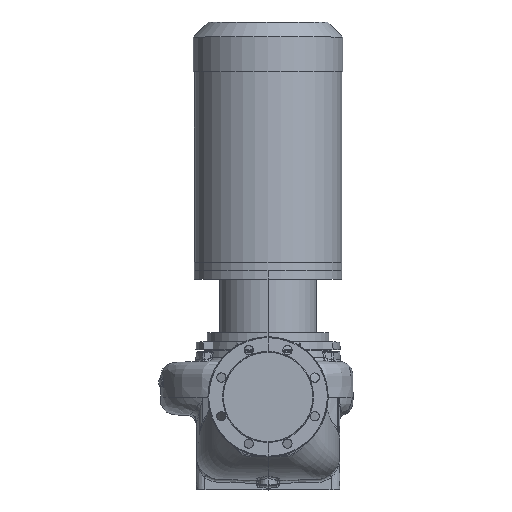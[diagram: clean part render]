
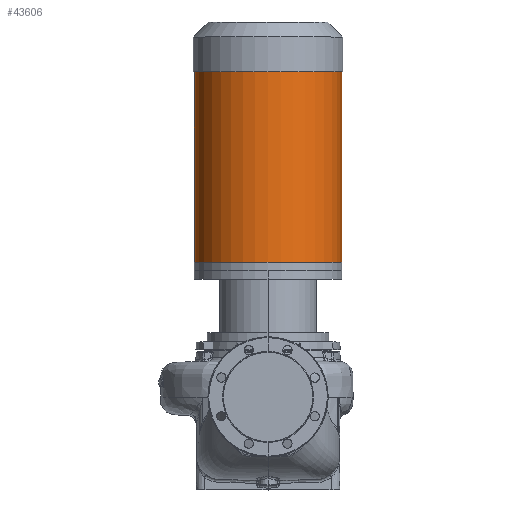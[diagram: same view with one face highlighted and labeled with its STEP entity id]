
A CAD part, top view. The second image highlights one B-rep face of the part: STEP entity #43606.
In plain terms, the highlighted cylindrical face has radius 174.5 mm (diameter 349 mm), a partial arc.
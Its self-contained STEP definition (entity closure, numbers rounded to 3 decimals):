
#103 = CARTESIAN_POINT ( 'NONE',  ( 174.5, 299.8, 0. ) ) ;
#527 = ORIENTED_EDGE ( 'NONE', *, *, #19505, .F. ) ;
#1902 = ORIENTED_EDGE ( 'NONE', *, *, #47893, .F. ) ;
#3266 = AXIS2_PLACEMENT_3D ( 'NONE', #50476, #62337, #11885 ) ;
#4715 = CARTESIAN_POINT ( 'NONE',  ( -174.5, 319.8, 0. ) ) ;
#10913 = LINE ( 'NONE', #103, #75435 ) ;
#11133 = DIRECTION ( 'NONE',  ( 0., -1., 0. ) ) ;
#11885 = DIRECTION ( 'NONE',  ( -1., 0., 0. ) ) ;
#14037 = DIRECTION ( 'NONE',  ( -1., 0., 0. ) ) ;
#18522 = EDGE_CURVE ( 'NONE', #23207, #76139, #44001, .T. ) ;
#19505 = EDGE_CURVE ( 'NONE', #26084, #76139, #26729, .T. ) ;
#23207 = VERTEX_POINT ( 'NONE', #61139 ) ;
#25154 = VERTEX_POINT ( 'NONE', #26633 ) ;
#26017 = ORIENTED_EDGE ( 'NONE', *, *, #65245, .T. ) ;
#26084 = VERTEX_POINT ( 'NONE', #40069 ) ;
#26519 = DIRECTION ( 'NONE',  ( 0., -1., 0. ) ) ;
#26633 = CARTESIAN_POINT ( 'NONE',  ( 174.5, 771.8, 0. ) ) ;
#26702 = DIRECTION ( 'NONE',  ( 0., -1., 0. ) ) ;
#26729 = CIRCLE ( 'NONE', #76099, 174.5 ) ;
#35724 = AXIS2_PLACEMENT_3D ( 'NONE', #59168, #26702, #14037 ) ;
#40069 = CARTESIAN_POINT ( 'NONE',  ( 174.5, 319.8, 0. ) ) ;
#42194 = FACE_OUTER_BOUND ( 'NONE', #74339, .T. ) ;
#43606 = ADVANCED_FACE ( 'NONE', ( #42194 ), #80567, .T. ) ;
#44001 = LINE ( 'NONE', #44538, #51050 ) ;
#44538 = CARTESIAN_POINT ( 'NONE',  ( -174.5, 299.8, 0. ) ) ;
#44822 = DIRECTION ( 'NONE',  ( 0., -1., 0. ) ) ;
#47893 = EDGE_CURVE ( 'NONE', #25154, #26084, #10913, .T. ) ;
#50271 = CARTESIAN_POINT ( 'NONE',  ( 0., 319.8, 0. ) ) ;
#50476 = CARTESIAN_POINT ( 'NONE',  ( 0., 299.8, 0. ) ) ;
#51050 = VECTOR ( 'NONE', #44822, 1000. ) ;
#59168 = CARTESIAN_POINT ( 'NONE',  ( 0., 771.8, 0. ) ) ;
#61139 = CARTESIAN_POINT ( 'NONE',  ( -174.5, 771.8, 0. ) ) ;
#62337 = DIRECTION ( 'NONE',  ( 0., -1., 0. ) ) ;
#65245 = EDGE_CURVE ( 'NONE', #25154, #23207, #65706, .T. ) ;
#65706 = CIRCLE ( 'NONE', #35724, 174.5 ) ;
#74339 = EDGE_LOOP ( 'NONE', ( #1902, #26017, #79211, #527 ) ) ;
#75435 = VECTOR ( 'NONE', #26519, 1000. ) ;
#75949 = DIRECTION ( 'NONE',  ( -1., 0., 0. ) ) ;
#76099 = AXIS2_PLACEMENT_3D ( 'NONE', #50271, #11133, #75949 ) ;
#76139 = VERTEX_POINT ( 'NONE', #4715 ) ;
#79211 = ORIENTED_EDGE ( 'NONE', *, *, #18522, .T. ) ;
#80567 = CYLINDRICAL_SURFACE ( 'NONE', #3266, 174.5 ) ;
